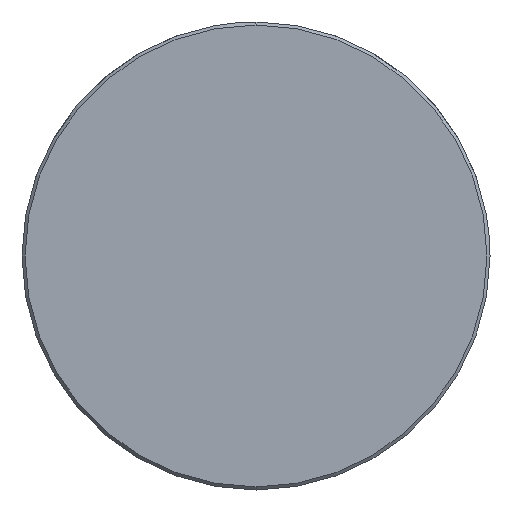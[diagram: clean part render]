
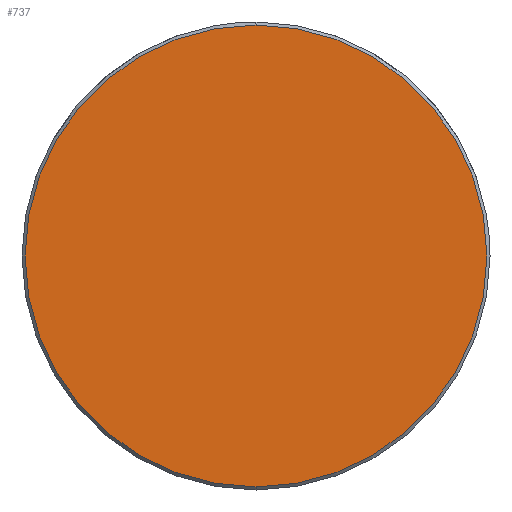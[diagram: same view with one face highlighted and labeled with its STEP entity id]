
A CAD part, left-side view. The second image highlights one B-rep face of the part: STEP entity #737.
In plain terms, the highlighted planar face has unit normal (-1, 0, 0).
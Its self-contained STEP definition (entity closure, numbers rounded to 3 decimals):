
#669=CARTESIAN_POINT('Vertex',(0.,0.,-22.2)) ;
#672=CARTESIAN_POINT('Axis2P3D Location',(0.,0.,0.)) ;
#676=CARTESIAN_POINT('Vertex',(0.,22.2,0.)) ;
#679=CARTESIAN_POINT('Axis2P3D Location',(0.,0.,0.)) ;
#683=CARTESIAN_POINT('Vertex',(0.,0.,22.2)) ;
#705=CARTESIAN_POINT('Axis2P3D Location',(0.,0.,0.)) ;
#709=CARTESIAN_POINT('Vertex',(0.,-22.2,0.)) ;
#712=CARTESIAN_POINT('Axis2P3D Location',(0.,0.,0.)) ;
#726=CARTESIAN_POINT('Axis2P3D Location',(0.,0.,0.)) ;
#673=DIRECTION('Axis2P3D Direction',(1.,0.,-0.)) ;
#680=DIRECTION('Axis2P3D Direction',(1.,0.,-0.)) ;
#706=DIRECTION('Axis2P3D Direction',(1.,0.,-0.)) ;
#713=DIRECTION('Axis2P3D Direction',(1.,0.,-0.)) ;
#727=DIRECTION('Axis2P3D Direction',(1.,0.,-0.)) ;
#728=DIRECTION('Axis2P3D XDirection',(-0.,0.,-1.)) ;
#674=AXIS2_PLACEMENT_3D('Circle Axis2P3D',#672,#673,$) ;
#681=AXIS2_PLACEMENT_3D('Circle Axis2P3D',#679,#680,$) ;
#707=AXIS2_PLACEMENT_3D('Circle Axis2P3D',#705,#706,$) ;
#714=AXIS2_PLACEMENT_3D('Circle Axis2P3D',#712,#713,$) ;
#729=AXIS2_PLACEMENT_3D('Plane Axis2P3D',#726,#727,#728) ;
#732=ORIENTED_EDGE('',*,*,#678,.F.) ;
#733=ORIENTED_EDGE('',*,*,#716,.F.) ;
#734=ORIENTED_EDGE('',*,*,#711,.F.) ;
#735=ORIENTED_EDGE('',*,*,#685,.F.) ;
#737=ADVANCED_FACE('549-40X200',(#736),#730,.F.) ;
#675=CIRCLE('generated circle',#674,22.2) ;
#682=CIRCLE('generated circle',#681,22.2) ;
#708=CIRCLE('generated circle',#707,22.2) ;
#715=CIRCLE('generated circle',#714,22.2) ;
#678=EDGE_CURVE('',#670,#677,#675,.T.) ;
#685=EDGE_CURVE('',#677,#684,#682,.T.) ;
#711=EDGE_CURVE('',#684,#710,#708,.T.) ;
#716=EDGE_CURVE('',#710,#670,#715,.T.) ;
#731=EDGE_LOOP('',(#732,#733,#734,#735)) ;
#736=FACE_OUTER_BOUND('',#731,.T.) ;
#730=PLANE('Plane',#729) ;
#670=VERTEX_POINT('',#669) ;
#677=VERTEX_POINT('',#676) ;
#684=VERTEX_POINT('',#683) ;
#710=VERTEX_POINT('',#709) ;
